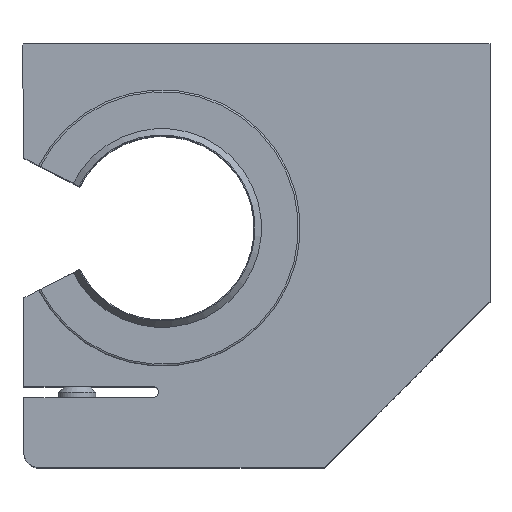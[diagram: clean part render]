
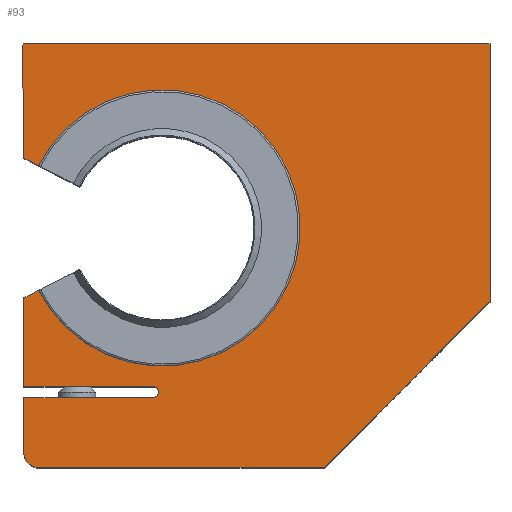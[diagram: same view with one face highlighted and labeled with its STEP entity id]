
A CAD part, top view. The second image highlights one B-rep face of the part: STEP entity #93.
In plain terms, the highlighted planar face has unit normal (0, 0, 1).
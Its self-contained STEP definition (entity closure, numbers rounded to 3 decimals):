
#93=ADVANCED_FACE('',(#207),#208,.F.);
#207=FACE_OUTER_BOUND('',#425,.T.);
#208=PLANE('',#426);
#425=EDGE_LOOP('',(#713,#714,#715,#716,#717,#718,#719,#720,#721,#722,#723,#724,#725,#726,#727,#728,#729));
#426=AXIS2_PLACEMENT_3D('',#730,#731,#732);
#713=ORIENTED_EDGE('',*,*,#1383,.F.);
#714=ORIENTED_EDGE('',*,*,#1384,.T.);
#715=ORIENTED_EDGE('',*,*,#1385,.F.);
#716=ORIENTED_EDGE('',*,*,#1386,.F.);
#717=ORIENTED_EDGE('',*,*,#1387,.F.);
#718=ORIENTED_EDGE('',*,*,#1388,.F.);
#719=ORIENTED_EDGE('',*,*,#1389,.F.);
#720=ORIENTED_EDGE('',*,*,#1390,.F.);
#721=ORIENTED_EDGE('',*,*,#1391,.F.);
#722=ORIENTED_EDGE('',*,*,#1359,.F.);
#723=ORIENTED_EDGE('',*,*,#1392,.F.);
#724=ORIENTED_EDGE('',*,*,#1393,.F.);
#725=ORIENTED_EDGE('',*,*,#1371,.F.);
#726=ORIENTED_EDGE('',*,*,#1394,.F.);
#727=ORIENTED_EDGE('',*,*,#1395,.F.);
#728=ORIENTED_EDGE('',*,*,#1396,.F.);
#729=ORIENTED_EDGE('',*,*,#1397,.F.);
#730=CARTESIAN_POINT('',(-33.5,-61.0,56.5));
#731=DIRECTION('',(0.0,0.0,-1.0));
#732=DIRECTION('',(0.0,1.0,0.0));
#1359=EDGE_CURVE('',#1627,#1629,#1630,.T.);
#1371=EDGE_CURVE('',#1650,#1652,#1653,.T.);
#1383=EDGE_CURVE('',#1671,#1672,#1673,.T.);
#1384=EDGE_CURVE('',#1671,#1674,#1675,.F.);
#1385=EDGE_CURVE('',#1676,#1674,#1677,.T.);
#1386=EDGE_CURVE('',#1678,#1676,#1679,.T.);
#1387=EDGE_CURVE('',#1680,#1678,#1681,.T.);
#1388=EDGE_CURVE('',#1682,#1680,#1683,.T.);
#1389=EDGE_CURVE('',#1684,#1682,#1685,.T.);
#1390=EDGE_CURVE('',#1686,#1684,#1687,.T.);
#1391=EDGE_CURVE('',#1629,#1686,#1688,.T.);
#1392=EDGE_CURVE('',#1689,#1627,#1690,.T.);
#1393=EDGE_CURVE('',#1652,#1689,#1691,.T.);
#1394=EDGE_CURVE('',#1692,#1650,#1693,.T.);
#1395=EDGE_CURVE('',#1694,#1692,#1695,.T.);
#1396=EDGE_CURVE('',#1696,#1694,#1697,.T.);
#1397=EDGE_CURVE('',#1672,#1696,#1698,.T.);
#1627=VERTEX_POINT('',#2048);
#1629=VERTEX_POINT('',#2051);
#1630=CIRCLE('',#2052,37.5);
#1650=VERTEX_POINT('',#2078);
#1652=VERTEX_POINT('',#2081);
#1653=LINE('',#2082,#2083);
#1671=VERTEX_POINT('',#2102);
#1672=VERTEX_POINT('',#2103);
#1673=LINE('',#2104,#2105);
#1674=VERTEX_POINT('',#2106);
#1675=LINE('',#2107,#2108);
#1676=VERTEX_POINT('',#2109);
#1677=LINE('',#2110,#2111);
#1678=VERTEX_POINT('',#2112);
#1679=LINE('',#2113,#2114);
#1680=VERTEX_POINT('',#2115);
#1681=LINE('',#2116,#2117);
#1682=VERTEX_POINT('',#2118);
#1683=LINE('',#2119,#2120);
#1684=VERTEX_POINT('',#2121);
#1685=LINE('',#2122,#2123);
#1686=VERTEX_POINT('',#2124);
#1687=LINE('',#2125,#2126);
#1688=LINE('',#2127,#2128);
#1689=VERTEX_POINT('',#2129);
#1690=LINE('',#2130,#2131);
#1691=LINE('',#2132,#2133);
#1692=VERTEX_POINT('',#2134);
#1693=CIRCLE('',#2135,1.5);
#1694=VERTEX_POINT('',#2136);
#1695=LINE('',#2137,#2138);
#1696=VERTEX_POINT('',#2139);
#1697=LINE('',#2140,#2141);
#1698=CIRCLE('',#2142,4.0);
#2048=CARTESIAN_POINT('',(-33.463,-16.925,56.5));
#2051=CARTESIAN_POINT('',(-33.463,16.925,56.5));
#2052=AXIS2_PLACEMENT_3D('',#2621,#2622,#2623);
#2078=CARTESIAN_POINT('',(-2.5,-43.0,56.5));
#2081=CARTESIAN_POINT('',(-37.5,-43.0,56.5));
#2082=CARTESIAN_POINT('',(-2.5,-43.0,56.5));
#2083=VECTOR('',#2643,1.0);
#2102=CARTESIAN_POINT('',(44.0,-65.0,56.5));
#2103=CARTESIAN_POINT('',(-33.5,-65.0,56.5));
#2104=CARTESIAN_POINT('',(89.0,-65.0,56.5));
#2105=VECTOR('',#2669,1.0);
#2106=CARTESIAN_POINT('',(89.0,-20.0,56.5));
#2107=CARTESIAN_POINT('',(89.0,-20.0,56.5));
#2108=VECTOR('',#2670,1.0);
#2109=CARTESIAN_POINT('',(89.0,50.0,56.5));
#2110=CARTESIAN_POINT('',(89.0,50.0,56.5));
#2111=VECTOR('',#2671,1.0);
#2112=CARTESIAN_POINT('',(-37.5,50.0,56.5));
#2113=CARTESIAN_POINT('',(-37.5,50.0,56.5));
#2114=VECTOR('',#2672,1.0);
#2115=CARTESIAN_POINT('',(-38.0,49.5,56.5));
#2116=CARTESIAN_POINT('',(-38.0,49.5,56.5));
#2117=VECTOR('',#2673,1.0);
#2118=CARTESIAN_POINT('',(-38.0,38.0,56.5));
#2119=CARTESIAN_POINT('',(-38.0,38.0,56.5));
#2120=VECTOR('',#2674,1.0);
#2121=CARTESIAN_POINT('',(-37.5,37.5,56.5));
#2122=CARTESIAN_POINT('',(-37.5,37.5,56.5));
#2123=VECTOR('',#2675,1.0);
#2124=CARTESIAN_POINT('',(-37.5,18.982,56.5));
#2125=CARTESIAN_POINT('',(-37.5,18.982,56.5));
#2126=VECTOR('',#2676,1.0);
#2127=CARTESIAN_POINT('',(-33.463,16.925,56.5));
#2128=VECTOR('',#2677,1.0);
#2129=CARTESIAN_POINT('',(-37.5,-18.982,56.5));
#2130=CARTESIAN_POINT('',(-37.5,-18.982,56.5));
#2131=VECTOR('',#2678,1.0);
#2132=CARTESIAN_POINT('',(-37.5,-43.0,56.5));
#2133=VECTOR('',#2679,1.0);
#2134=CARTESIAN_POINT('',(-2.5,-46.0,56.5));
#2135=AXIS2_PLACEMENT_3D('',#2680,#2681,#2682);
#2136=CARTESIAN_POINT('',(-37.5,-46.0,56.5));
#2137=CARTESIAN_POINT('',(-37.5,-46.0,56.5));
#2138=VECTOR('',#2683,1.0);
#2139=CARTESIAN_POINT('',(-37.5,-61.0,56.5));
#2140=CARTESIAN_POINT('',(-37.5,-61.0,56.5));
#2141=VECTOR('',#2684,1.0);
#2142=AXIS2_PLACEMENT_3D('',#2685,#2686,#2687);
#2621=CARTESIAN_POINT('',(0.0,0.0,56.5));
#2622=DIRECTION('',(0.0,0.0,1.0));
#2623=DIRECTION('',(1.0,0.0,0.0));
#2643=DIRECTION('',(-1.0,0.0,0.0));
#2669=DIRECTION('',(-1.0,0.,0.0));
#2670=DIRECTION('',(-0.707,-0.707,0.0));
#2671=DIRECTION('',(0.,-1.0,0.0));
#2672=DIRECTION('',(1.0,0.0,0.0));
#2673=DIRECTION('',(0.707,0.707,0.0));
#2674=DIRECTION('',(0.0,1.0,0.0));
#2675=DIRECTION('',(-0.707,0.707,0.0));
#2676=DIRECTION('',(0.0,1.0,0.0));
#2677=DIRECTION('',(-0.891,0.454,0.0));
#2678=DIRECTION('',(0.891,0.454,0.0));
#2679=DIRECTION('',(0.0,1.0,0.0));
#2680=CARTESIAN_POINT('',(-2.5,-44.5,56.5));
#2681=DIRECTION('',(0.0,0.0,1.0));
#2682=DIRECTION('',(1.0,0.0,0.0));
#2683=DIRECTION('',(1.0,0.0,0.0));
#2684=DIRECTION('',(0.0,1.0,0.0));
#2685=CARTESIAN_POINT('',(-33.5,-61.0,56.5));
#2686=DIRECTION('',(0.0,0.0,-1.0));
#2687=DIRECTION('',(1.0,0.0,0.0));
